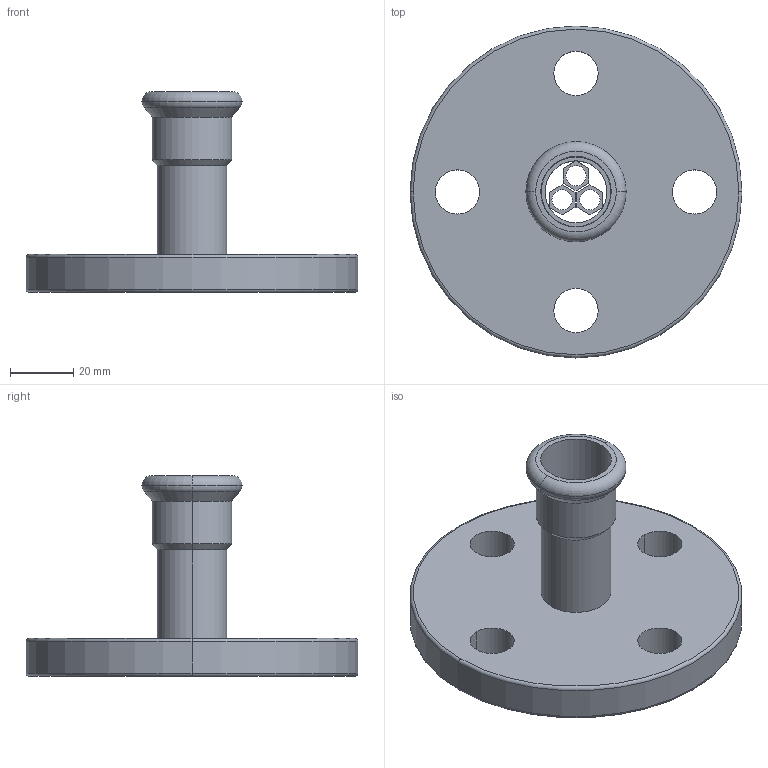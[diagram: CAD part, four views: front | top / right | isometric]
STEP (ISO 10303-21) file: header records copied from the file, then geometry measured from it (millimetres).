
FILE_DESCRIPTION(('OneSpaceDesigner STEP Export'),'2;1');
FILE_NAME('R2726 22.stp','2010-06-10T13:07:55',(''),(''),'OneSpace Designer STEP processor for AP214 (Solid Model)','OneSpace Modeling 15.00A 14-Mar-2007 (C) CoCreate Software GmbH','');
FILE_SCHEMA(('AUTOMOTIVE_DESIGN { 1 0 10303 214 1 1 1 1 }'));
Length unit declared in the file: millimetre
Products named in the file (2): R2726_22
Assembly tree (1 placements, depth 2):
  R2726_22
    R2726_22
Bounding box: 105 x 105 x 63.5 mm (x, y, z)
Volume: 98424.6 mm3; surface area: 30291.2 mm2
Topology: 2 solids, 2 shells, 76 faces, 185 edges, 118 vertices
Faces by surface type: plane 33, cylinder 31, torus 8, cone 4
Entity records: 2026 total; most frequent: ORIENTED_EDGE 374, CARTESIAN_POINT 321, DIRECTION 305, EDGE_CURVE 185, VERTEX_POINT 118, AXIS2_PLACEMENT_3D 102, VECTOR 101, LINE 101
